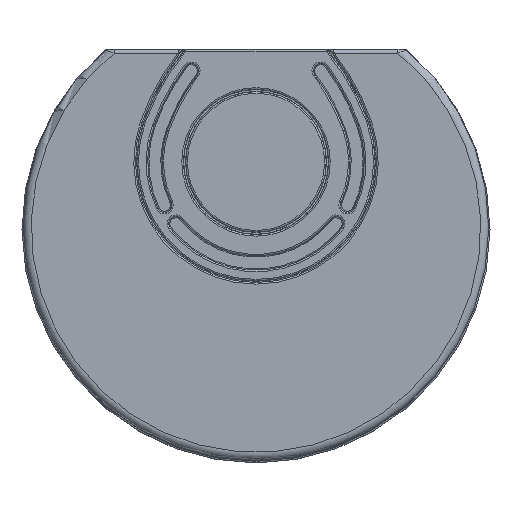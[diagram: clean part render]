
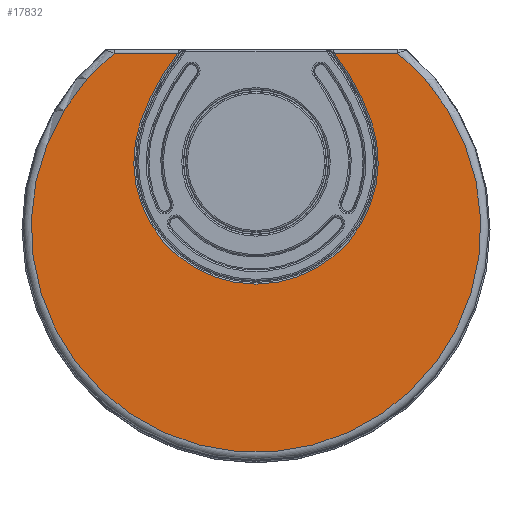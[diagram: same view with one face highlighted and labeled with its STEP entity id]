
A CAD part, top view. The second image highlights one B-rep face of the part: STEP entity #17832.
In plain terms, the highlighted planar face has unit normal (0, 0, 1).
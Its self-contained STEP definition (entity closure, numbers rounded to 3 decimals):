
#597=CIRCLE('',#19153,152.766);
#598=CIRCLE('',#19154,302.766);
#599=CIRCLE('',#19155,281.);
#600=CIRCLE('',#19156,302.766);
#2608=ORIENTED_EDGE('',*,*,#8250,.T.);
#2609=ORIENTED_EDGE('',*,*,#8251,.T.);
#2610=ORIENTED_EDGE('',*,*,#8252,.T.);
#2611=ORIENTED_EDGE('',*,*,#8253,.T.);
#2612=ORIENTED_EDGE('',*,*,#8254,.T.);
#2613=ORIENTED_EDGE('',*,*,#8255,.T.);
#8250=EDGE_CURVE('',#11071,#11072,#597,.F.);
#8251=EDGE_CURVE('',#11072,#11073,#598,.F.);
#8252=EDGE_CURVE('',#11073,#11074,#12872,.T.);
#8253=EDGE_CURVE('',#11074,#11075,#599,.T.);
#8254=EDGE_CURVE('',#11075,#11076,#12873,.T.);
#8255=EDGE_CURVE('',#11076,#11071,#600,.F.);
#11071=VERTEX_POINT('',#25197);
#11072=VERTEX_POINT('',#25198);
#11073=VERTEX_POINT('',#25200);
#11074=VERTEX_POINT('',#25202);
#11075=VERTEX_POINT('',#25204);
#11076=VERTEX_POINT('',#25206);
#12872=LINE('',#25201,#13871);
#12873=LINE('',#25205,#13872);
#13871=VECTOR('',#20844,1000.);
#13872=VECTOR('',#20847,1000.);
#14859=EDGE_LOOP('',(#2608,#2609,#2610,#2611,#2612,#2613));
#16105=FACE_BOUND('',#14859,.T.);
#17350=PLANE('',#19152);
#17832=ADVANCED_FACE('',(#16105),#17350,.T.);
#19152=AXIS2_PLACEMENT_3D('',#25195,#20838,#20839);
#19153=AXIS2_PLACEMENT_3D('',#25196,#20840,#20841);
#19154=AXIS2_PLACEMENT_3D('',#25199,#20842,#20843);
#19155=AXIS2_PLACEMENT_3D('',#25203,#20845,#20846);
#19156=AXIS2_PLACEMENT_3D('',#25207,#20848,#20849);
#20838=DIRECTION('',(0.,0.,1.));
#20839=DIRECTION('',(1.,0.,0.));
#20840=DIRECTION('',(0.,0.,1.));
#20841=DIRECTION('',(1.,0.,0.));
#20842=DIRECTION('',(0.,0.,1.));
#20843=DIRECTION('',(1.,0.,0.));
#20844=DIRECTION('',(-1.,0.,0.));
#20845=DIRECTION('',(0.,0.,1.));
#20846=DIRECTION('',(1.,0.,0.));
#20847=DIRECTION('',(-1.,0.,0.));
#20848=DIRECTION('',(0.,0.,1.));
#20849=DIRECTION('',(1.,0.,0.));
#25195=CARTESIAN_POINT('',(0.,-321.3,1290.));
#25196=CARTESIAN_POINT('',(0.,-239.3,1290.));
#25197=CARTESIAN_POINT('',(144.356,-189.313,1290.));
#25198=CARTESIAN_POINT('',(-144.356,-189.313,1290.));
#25199=CARTESIAN_POINT('',(141.743,-288.382,1290.));
#25200=CARTESIAN_POINT('',(-97.865,-103.3,1290.));
#25201=CARTESIAN_POINT('',(-170.974,-103.3,1290.));
#25202=CARTESIAN_POINT('',(-177.305,-103.3,1290.));
#25203=CARTESIAN_POINT('',(0.,-321.3,1290.));
#25204=CARTESIAN_POINT('',(177.305,-103.3,1290.));
#25205=CARTESIAN_POINT('',(91.344,-103.3,1290.));
#25206=CARTESIAN_POINT('',(97.865,-103.3,1290.));
#25207=CARTESIAN_POINT('',(-141.743,-288.382,1290.));
